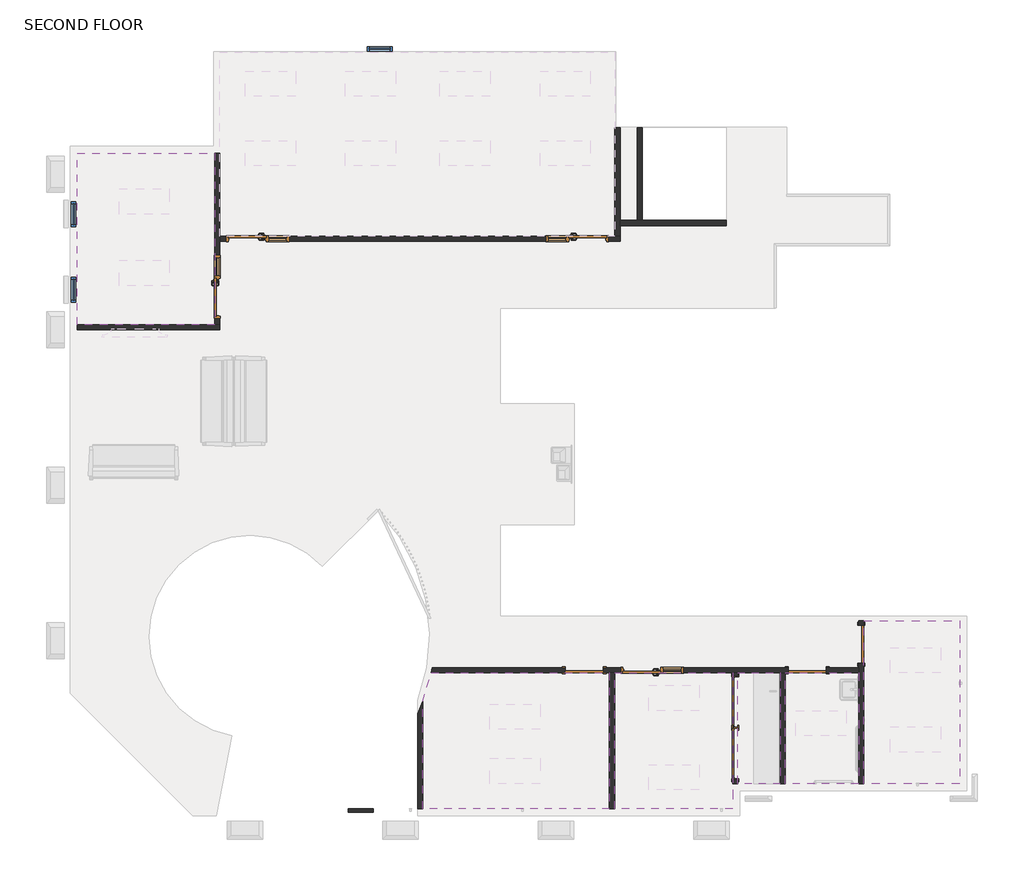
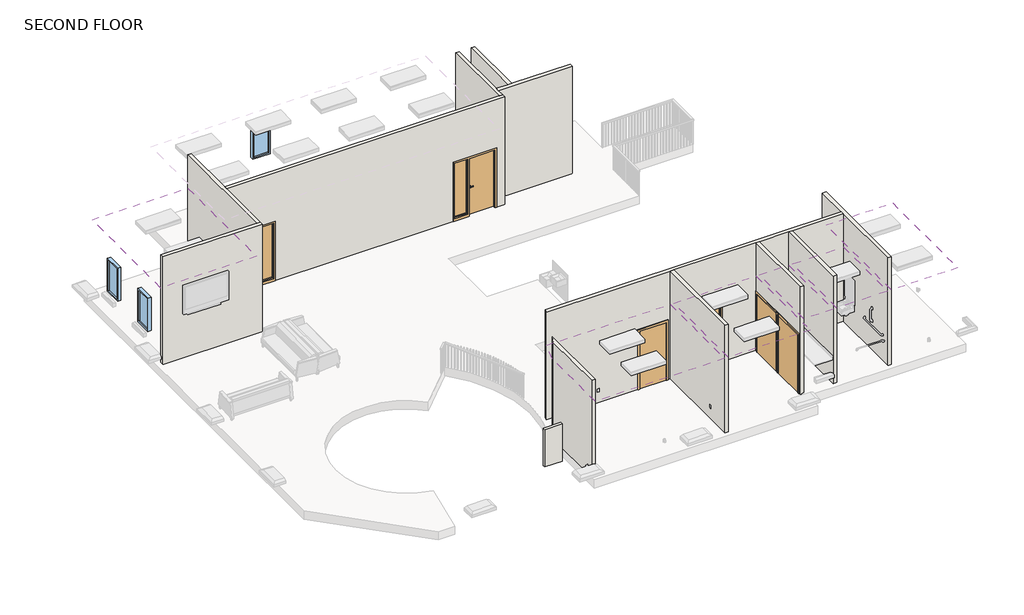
# One storey, part 1 of 2: 13 walls, 9 doors, 6 coverings, 3 windows.
"""IFC4 building model written with IfcOpenShell, lengths in millimetres."""

from ifc_helpers import new_model, si_unit, point, frame, frame_2d, origin, place, context, project, spatial, polyline, circle_curve, trimmed, segment, composite_curve, outline, extrude, faceted_brep, transform, mapped, element, save
from ifc_brep_helpers import plane_surface, revolved_surface, advanced_brep
from components import door_5f36bbb1, hm_frame_door_interior_single_with_sidelite_831faa12, hm_frame_door_interior_single_with_sidelite_94e37508, door_88503111, door_eb9f8b14, aluminum_exterior_window_single_3885_e2dbf674

model = new_model("IFC4")

# Units and contexts
model_context = context("Model", 3, world=origin())
ifc_project = project(units=[si_unit("LENGTHUNIT", "METRE", prefix="MILLI")], contexts=[model_context])

# Site, building, storey
site = spatial("IfcSite", under=ifc_project)
building = spatial("IfcBuilding", under=site)
storey = spatial("IfcBuildingStorey", under=building, Name="SECOND FLOOR", Elevation=34594.8)

# Coverings
placement = place(None, origin())
element("IfcCovering", 1, ObjectType="2' x 2' ACT System", at=placement, inside=storey, context=model_context, shape_type="SweptSolid", body=[
    extrude(outline(composite_curve([segment(polyline([(-3649.772753, -2663.5972564), (-3649.772753, -5952.9989595), (-8159.860253, -5952.9989595), (-8159.860253, -3356.4468483)]), True, "CONTINUOUS"), segment(trimmed(circle_curve(frame_2d((-12311.0905196, -1776.2264191)), 4441.825), [point((-8159.860253, -3356.4468483))], [point((-7958.8057946, -2663.5972564))], True, "CARTESIAN"), True, "CONTINUOUS"), segment(polyline([(-7958.8057946, -2663.5972564), (-3649.772753, -2663.5972564)]), True, "CONTINUOUS")], self_intersect=False), holes=[polyline([(-5326.172753, -3425.5972564), (-6545.372753, -3425.5972564), (-6545.372753, -4035.1972564), (-5326.172753, -4035.1972564), (-5326.172753, -3425.5972564)]), polyline([(-5326.172753, -4733.7989595), (-6545.372753, -4733.7989595), (-6545.372753, -5343.3989595), (-5326.172753, -5343.3989595), (-5326.172753, -4733.7989595)])]), frame((0.0, 0.0, 37338.0), z_axis=(0.0, 0.0, 1.0), x_axis=(1.0, 0.0, 0.0)), (0.0, 0.0, 1.0), 57.15),
])
element("IfcCovering", 2, ObjectType="2' x 2' ACT System", at=placement, inside=storey, context=model_context, shape_type="SweptSolid", body=[
    extrude(outline(polyline([(-670.035253, -2663.5972564), (-670.035253, -5495.7989595), (-670.035253, -5952.9989595), (-3525.947753, -5952.9989595), (-3525.947753, -2663.5972564), (-670.035253, -2663.5972564)]), holes=[polyline([(-1482.835253, -2968.3972564), (-2702.035253, -2968.3972564), (-2702.035253, -3577.9972564), (-1482.835253, -3577.9972564), (-1482.835253, -2968.3972564)]), polyline([(-1482.835253, -4886.1989595), (-2702.035253, -4886.1989595), (-2702.035253, -5495.7989595), (-1482.835253, -5495.7989595), (-1482.835253, -4886.1989595)])]), frame((0.0, 0.0, 37338.0), z_axis=(0.0, 0.0, 1.0), x_axis=(1.0, 0.0, 0.0)), (0.0, 0.0, 1.0), 57.15),
])
element("IfcCovering", 3, ObjectType="2' x 2' ACT System", at=placement, inside=storey, context=model_context, shape_type="SweptSolid", body=[
    extrude(outline(polyline([(476.139747, -2663.5972564), (476.139747, -5343.3989595), (-546.210253, -5343.3989595), (-546.210253, -2663.5972564), (476.139747, -2663.5972564)])), frame((0.0, 0.0, 37338.0), z_axis=(0.0, 0.0, 1.0), x_axis=(1.0, 0.0, 0.0)), (0.0, 0.0, 1.0), 57.15),
])
element("IfcCovering", 4, ObjectType="2' x 2' ACT System", at=placement, inside=storey, context=model_context, shape_type="SweptSolid", body=[
    extrude(outline(polyline([(2377.964747, -5343.3989595), (599.964747, -5343.3989595), (599.964747, -2663.5972564), (2377.964747, -2663.5972564), (2377.964747, -5343.3989595)]), holes=[polyline([(2073.164747, -3577.9972564), (853.964747, -3577.9972564), (853.964747, -4187.5972564), (2073.164747, -4187.5972564), (2073.164747, -3577.9972564)])]), frame((0.0, 0.0, 37338.0), z_axis=(0.0, 0.0, 1.0), x_axis=(1.0, 0.0, 0.0)), (0.0, 0.0, 1.0), 57.15),
])
element("IfcCovering", 5, ObjectType="2' x 2' ACT System", at=placement, inside=storey, context=model_context, shape_type="SweptSolid", body=[
    extrude(outline(polyline([(4816.364747, -1403.2239595), (4816.364747, -5343.3989595), (2501.789747, -5343.3989595), (2501.789747, -1403.2239595), (4816.364747, -1403.2239595)]), holes=[polyline([(4359.164747, -2053.9972564), (3139.964747, -2053.9972564), (3139.964747, -2663.5972564), (4359.164747, -2663.5972564), (4359.164747, -2053.9972564)]), polyline([(4359.164747, -3971.7989595), (3139.964747, -3971.7989595), (3139.964747, -4581.3989595), (4359.164747, -4581.3989595), (4359.164747, -3971.7989595)])]), frame((0.0, 0.0, 37338.0), z_axis=(0.0, 0.0, 1.0), x_axis=(1.0, 0.0, 0.0)), (0.0, 0.0, 1.0), 57.15),
])
element("IfcCovering", 6, ObjectType="2' x 2' ACT System", at=placement, inside=storey, context=model_context, shape_type="SweptSolid", body=[
    extrude(outline(polyline([(-16519.635253, 9896.6010405), (-13189.060253, 9896.6010405), (-13189.060253, 5753.2057205), (-16519.635253, 5753.2057205), (-16519.635253, 9896.6010405)]), holes=[polyline([(-14284.435253, 9033.0010405), (-15503.635253, 9033.0010405), (-15503.635253, 8423.4010405), (-14284.435253, 8423.4010405), (-14284.435253, 9033.0010405)]), polyline([(-14284.435253, 7305.7908805), (-15503.635253, 7305.7908805), (-15503.635253, 6696.1908805), (-14284.435253, 6696.1908805), (-14284.435253, 7305.7908805)])]), frame((0.0, 0.0, 37338.0), z_axis=(0.0, 0.0, 1.0), x_axis=(1.0, 0.0, 0.0)), (0.0, 0.0, 1.0), 57.15),
])

# Doors
door_shape = door_5f36bbb1(model_context)
element("IfcDoor", 7, ObjectType="Double-Flush-Wood Frame : (2) 2'-0\" x 7'-0\"", at=placement, inside=storey, context=model_context, shape_type="MappedRepresentation", body=[
    mapped(door_shape, transform((-608.122753, -3368.4472564, 34594.8), x_axis=(0.0, 1.0, 0.0), y_axis=(-1.0, 0.0, 0.0), z_axis=(0.0, 0.0, 1.0))),
])
element("IfcDoor", 8, ObjectType="Double-Flush-Wood Frame : (2) 2'-0\" x 7'-0\"", at=placement, inside=storey, context=model_context, shape_type="MappedRepresentation", body=[
    mapped(door_shape, transform((-608.122753, -4613.0472564, 34594.8), x_axis=(0.0, 1.0, 0.0), y_axis=(-1.0, 0.0, 0.0), z_axis=(0.0, 0.0, 1.0))),
])
hm_frame_door_interior_single_with_sidelite_shape = hm_frame_door_interior_single_with_sidelite_831faa12(model_context)
element("IfcDoor", 9, ObjectType="HM Frame Door - Interior Single with Sidelite : 36\" x 84\" x 5.75\" x 18\" Lite_Wood", at=placement, inside=storey, context=model_context, shape_type="MappedRepresentation", body=[
    mapped(hm_frame_door_interior_single_with_sidelite_shape, transform((-2865.547753, -2601.6847564, 34594.8), x_axis=(-1.0, 0.0, 0.0), y_axis=(0.0, -1.0, 0.0), z_axis=(0.0, 0.0, 1.0))),
])
element("IfcDoor", 10, ObjectType="HM Frame Door - Interior Single with Sidelite : 36\" x 84\" x 5.75\" x 18\" Lite_Wood", at=placement, inside=storey, context=model_context, shape_type="MappedRepresentation", body=[
    mapped(hm_frame_door_interior_single_with_sidelite_shape, transform((-4175.235253, 7824.9033805, 34594.8), x_axis=(1.0, 0.0, 0.0), y_axis=(0.0, 1.0, 0.0), z_axis=(0.0, 0.0, 1.0))),
])
hm_frame_door_interior_single_with_sidelite_2_shape = hm_frame_door_interior_single_with_sidelite_94e37508(model_context)
element("IfcDoor", 11, ObjectType="HM Frame Door - Interior Single with Sidelite : 36\" x 84\" x 5.75\" x 18\" Lite_Wood", at=placement, inside=storey, context=model_context, shape_type="MappedRepresentation", body=[
    mapped(hm_frame_door_interior_single_with_sidelite_2_shape, transform((-13127.147753, 6413.6057205, 34594.8), x_axis=(0.0, -1.0, 0.0), y_axis=(1.0, 0.0, 0.0), z_axis=(0.0, 0.0, 1.0))),
])
element("IfcDoor", 12, ObjectType="HM Frame Door - Interior Single with Sidelite : 36\" x 84\" x 5.75\" x 18\" Lite_Wood", at=placement, inside=storey, context=model_context, shape_type="MappedRepresentation", body=[
    mapped(hm_frame_door_interior_single_with_sidelite_2_shape, transform((-12404.835253, 7824.9033805, 34594.8), x_axis=(-1.0, 0.0, 0.0), y_axis=(0.0, -1.0, 0.0), z_axis=(0.0, 0.0, 1.0))),
])
door_2_shape = door_88503111(model_context)
element("IfcDoor", 13, ObjectType="Single-Flush : 36\" x 84\"", at=placement, inside=storey, context=model_context, shape_type="MappedRepresentation", body=[
    mapped(door_2_shape, transform((1133.364747, -2601.6847564, 34594.8), x_axis=(-1.0, 0.0, 0.0), y_axis=(0.0, -1.0, 0.0), z_axis=(0.0, 0.0, 1.0))),
])
door_3_shape = door_eb9f8b14(model_context)
element("IfcDoor", 14, ObjectType="Single-Flush : 36\" x 84\"", at=placement, inside=storey, context=model_context, shape_type="MappedRepresentation", body=[
    mapped(door_3_shape, transform((2439.877247, -1971.4981079, 34594.8), x_axis=(0.0, 1.0, 0.0), y_axis=(-1.0, 0.0, 0.0), z_axis=(0.0, 0.0, 1.0))),
])
element("IfcDoor", 15, ObjectType="Single-Flush : 36\" x 84\"", at=placement, inside=storey, context=model_context, shape_type="MappedRepresentation", body=[
    mapped(door_3_shape, transform((-4259.372753, -2601.6847564, 34594.8), x_axis=(1.0, 0.0, 0.0), y_axis=(0.0, 1.0, 0.0), z_axis=(0.0, 0.0, 1.0))),
])

# Walls
element("IfcWall", 16, ObjectType="Interior - 3 1/8\" Partition (1-hr)", at=placement, inside=storey, context=model_context, shape_type="SweptSolid", body=[
    extrude(outline(polyline([(-9966.435253, -5952.9989595), (-9356.835253, -5952.9989595), (-9356.835253, -6032.3739595), (-9966.435253, -6032.3739595), (-9966.435253, -5952.9989595)])), frame((0.0, 0.0, 35610.8), z_axis=(0.0, 0.0, 1.0), x_axis=(1.0, 0.0, 0.0)), (0.0, 0.0, 1.0), 1371.6),
])
element("IfcWall", 17, ObjectType="Interior - 4 7/8\" Partition (1-hr)", at=placement, inside=storey, context=model_context, shape_type="SweptSolid", body=[
    extrude(outline(polyline([(-5343.3989595, 38557.2), (-2663.5972564, 38557.2), (-2663.5972564, 34594.8), (-2733.4472564, 34594.8), (-2733.4472564, 36753.8), (-5248.0472564, 36753.8), (-5248.0472564, 34594.8), (-5343.3989595, 34594.8), (-5343.3989595, 38557.2)])), frame((-670.035253, 0.0, 0.0), z_axis=(1.0, 0.0, 0.0), x_axis=(0.0, 1.0, 0.0)), (0.0, 0.0, 1.0), 123.825),
])
element("IfcWall", 18, ObjectType="Interior - 4 7/8\" Partition (1-hr)", at=placement, inside=storey, context=model_context, shape_type="Brep", body=[
    faceted_brep([(-16519.635253, 5629.3807205, 34594.8), (-13065.235253, 5629.3807205, 34594.8), (-13065.235253, 5629.3807205, 38557.2), (-16519.635253, 5629.3807205, 38557.2), (-16519.635253, 5753.2057205, 34594.8), (-16519.635253, 5753.2057205, 38557.2), (-13189.060253, 5753.2057205, 38557.2), (-13065.235253, 5753.2057205, 38557.2), (-13065.235253, 5753.2057205, 34594.8), (-13189.060253, 5753.2057205, 34594.8)], [[[0, 1, 2, 3]], [[4, 5, 6, 7, 8, 9]], [[1, 0, 4, 9, 8]], [[3, 2, 7, 6, 5]], [[0, 3, 5, 4]], [[2, 1, 8, 7]]]),
])
element("IfcWall", 19, ObjectType="Interior - 4 7/8\" Partition (1-hr)", at=placement, inside=storey, context=model_context, shape_type="Brep", body=[
    faceted_brep([(-13065.235253, 5753.2057205, 34594.8), (-13065.235253, 5905.6057205, 34594.8), (-13065.235253, 5905.6057205, 36779.2), (-13065.235253, 7429.6057205, 36779.2), (-13065.235253, 7429.6057205, 34594.8), (-13065.235253, 7762.9908805, 34594.8), (-13065.235253, 7886.8158805, 34594.8), (-13065.235253, 9896.6010405, 34594.8), (-13065.235253, 9896.6010405, 38557.2), (-13065.235253, 7886.8158805, 38557.2), (-13065.235253, 7762.9908805, 38557.2), (-13065.235253, 5753.2057205, 38557.2), (-13189.060253, 5905.6057205, 36779.2), (-13189.060253, 5905.6057205, 34594.8), (-13189.060253, 5753.2057205, 34594.8), (-13189.060253, 5753.2057205, 38557.2), (-13189.060253, 9896.6010405, 38557.2), (-13189.060253, 9896.6010405, 34594.8), (-13189.060253, 7429.6057205, 34594.8), (-13189.060253, 7429.6057205, 36779.2)], [[[0, 1, 2, 3, 4, 5, 6, 7, 8, 9, 10, 11]], [[12, 13, 14, 15, 16, 17, 18, 19]], [[18, 17, 7, 6, 5, 4]], [[14, 13, 1, 0]], [[11, 10, 9, 8, 16, 15]], [[0, 11, 15, 14]], [[8, 7, 17, 16]], [[3, 2, 12, 19]], [[4, 3, 19, 18]], [[2, 1, 13, 12]]]),
])
element("IfcWall", 20, ObjectType="Interior - 4 7/8\" Partition (1-hr)", at=placement, inside=storey, context=model_context, shape_type="SweptSolid", body=[
    extrude(outline(polyline([(-2978.260253, 8271.0010405), (-2978.260253, 10506.2010405), (-2854.435253, 10506.2010405), (-2854.435253, 8271.0010405), (-2978.260253, 8271.0010405)])), frame((0.0, 0.0, 34594.8), z_axis=(0.0, 0.0, 1.0), x_axis=(1.0, 0.0, 0.0)), (0.0, 0.0, 1.0), 3962.4),
])
element("IfcWall", 21, ObjectType="Interior - 4 7/8\" Partition (1-hr)", at=placement, inside=storey, context=model_context, shape_type="AdvancedBrep", body=[
    advanced_brep(
    [(2377.964747, -2663.5972564, 34594.8), (2377.964747, -2663.5972564, 38557.2), (599.964747, -2663.5972564, 38557.2), (476.139747, -2663.5972564, 38557.2), (-546.210253, -2663.5972564, 38557.2), (-670.035253, -2663.5972564, 38557.2), (-3525.947753, -2663.5972564, 38557.2), (-3649.772753, -2663.5972564, 38557.2), (-7958.8057946, -2663.5972564, 38557.2), (-7958.8057946, -2663.5972564, 34594.8), (-4716.572753, -2663.5972564, 34594.8), (-4716.572753, -2663.5972564, 36728.4), (-3802.172753, -2663.5972564, 36728.4), (-3802.172753, -2663.5972564, 34594.8), (-3649.772753, -2663.5972564, 34594.8), (-3525.947753, -2663.5972564, 34594.8), (-3373.547753, -2663.5972564, 34594.8), (-3373.547753, -2663.5972564, 36779.2), (-1849.547753, -2663.5972564, 36779.2), (-1849.547753, -2663.5972564, 34594.8), (-670.035253, -2663.5972564, 34594.8), (-546.210253, -2663.5972564, 34594.8), (476.139747, -2663.5972564, 34594.8), (599.964747, -2663.5972564, 34594.8), (676.164747, -2663.5972564, 34594.8), (676.164747, -2663.5972564, 36728.4), (1590.564747, -2663.5972564, 36728.4), (1590.564747, -2663.5972564, 34594.8), (-7935.3840526, -2539.7722564, 38557.2), (2377.964747, -2539.7722564, 38557.2), (2377.964747, -2539.7722564, 34594.8), (1590.564747, -2539.7722564, 34594.8), (1590.564747, -2539.7722564, 36728.4), (676.164747, -2539.7722564, 36728.4), (676.164747, -2539.7722564, 34594.8), (-1849.547753, -2539.7722564, 34594.8), (-1849.547753, -2539.7722564, 36779.2), (-3373.547753, -2539.7722564, 36779.2), (-3373.547753, -2539.7722564, 34594.8), (-3802.172753, -2539.7722564, 34594.8), (-3802.172753, -2539.7722564, 36728.4), (-4716.572753, -2539.7722564, 36728.4), (-4716.572753, -2539.7722564, 34594.8), (-7935.3840526, -2539.7722564, 34594.8)],
    [
        (0, 1),
        (1, 2),
        (2, 3),
        (3, 4),
        (4, 5),
        (5, 6),
        (6, 7),
        (7, 8),
        (8, 9),
        (9, 10),
        (10, 11),
        (11, 12),
        (12, 13),
        (13, 14),
        (14, 15),
        (15, 16),
        (16, 17),
        (17, 18),
        (18, 19),
        (19, 20),
        (20, 21),
        (21, 22),
        (22, 23),
        (23, 24),
        (24, 25),
        (25, 26),
        (26, 27),
        (27, 0),
        (28, 29),
        (29, 30),
        (30, 31),
        (31, 32),
        (32, 33),
        (33, 34),
        (34, 35),
        (35, 36),
        (36, 37),
        (37, 38),
        (38, 39),
        (39, 40),
        (40, 41),
        (41, 42),
        (42, 43),
        (43, 28),
        (30, 0),
        (27, 31),
        (19, 35),
        (34, 24),
        (38, 16),
        (13, 39),
        (9, 43, circle_curve(frame((-12311.0905196, -1776.2264191, 34594.8), z_axis=(0.0, 0.0, 1.0), x_axis=(0.28138336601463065, -0.9595954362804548, 0.0)), 4441.825)),
        (42, 10),
        (28, 8, circle_curve(frame((-12311.0905196, -1776.2264191, 38557.2), z_axis=(0.0, 0.0, -1.0), x_axis=(0.28138336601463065, -0.9595954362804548, 0.0)), 4441.825)),
        (1, 29),
        (17, 37),
        (36, 18),
        (33, 25),
        (32, 26),
        (12, 40),
        (11, 41),
    ],
    [
        plane_surface(frame((-8022.010606, -2663.5972564, 34594.8), z_axis=(0.0, -1.0, 0.0), x_axis=(1.0, 0.0, 0.0))),
        plane_surface(frame((-8022.010606, -2539.7722564, 34594.8), z_axis=(0.0, 1.0, 0.0), x_axis=(-1.0, 0.0, 0.0))),
        plane_surface(frame((-8009.6660996, -2663.5972564, 34594.8), z_axis=(0.0, 0.0, -1.0), x_axis=(0.0, 1.0, 0.0))),
        plane_surface(frame((2439.877247, -2663.5972564, 38557.2), z_axis=(0.0, 0.0, 1.0), x_axis=(0.0, 1.0, 0.0))),
        plane_surface(frame((2377.964747, -2663.5972564, 34594.8), z_axis=(1.0, 0.0, 0.0), x_axis=(0.0, -1.0, 0.0))),
        plane_surface(frame((-3373.547753, -2663.5972564, 36779.2), z_axis=(0.0, 0.0, -1.0), x_axis=(0.0, 1.0, 0.0))),
        plane_surface(frame((-1849.547753, -2663.5972564, 36779.2), z_axis=(-1.0, 0.0, 0.0), x_axis=(0.0, 1.0, 0.0))),
        plane_surface(frame((-3373.547753, -2663.5972564, 34594.8), z_axis=(1.0, 0.0, 0.0), x_axis=(0.0, 1.0, 0.0))),
        plane_surface(frame((676.164747, -2663.5972564, 34594.8), z_axis=(1.0, 0.0, 0.0), x_axis=(0.0, 1.0, 0.0))),
        plane_surface(frame((676.164747, -2663.5972564, 36728.4), z_axis=(0.0, 0.0, -1.0), x_axis=(0.0, 1.0, 0.0))),
        plane_surface(frame((1590.564747, -2663.5972564, 36728.4), z_axis=(-1.0, 0.0, 0.0), x_axis=(0.0, 1.0, 0.0))),
        revolved_surface(polyline([(-11061.234849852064, -6038.581417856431, 38557.2), (-11061.234849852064, -6038.581417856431, 34594.8)]), (-12311.0905196, -1776.2264191, 34594.8), (0.0, 0.0, 1.0)),
        plane_surface(frame((-3802.172753, -2539.7722564, 34594.8), z_axis=(-1.0, 0.0, 0.0), x_axis=(0.0, -1.0, 0.0))),
        plane_surface(frame((-3802.172753, -2539.7722564, 36728.4), z_axis=(0.0, 0.0, -1.0), x_axis=(0.0, -1.0, 0.0))),
        plane_surface(frame((-4716.572753, -2539.7722564, 36728.4), z_axis=(1.0, 0.0, 0.0), x_axis=(0.0, -1.0, 0.0))),
    ],
    [
        (0, [[1, 2, 3, 4, 5, 6, 7, 8, 9, 10, 11, 12, 13, 14, 15, 16, 17, 18, 19, 20, 21, 22, 23, 24, 25, 26, 27, 28]]),
        (1, [[29, 30, 31, 32, 33, 34, 35, 36, 37, 38, 39, 40, 41, 42, 43, 44]]),
        (2, [[45, -28, 46, -31]]),
        (2, [[47, -35, 48, -24, -23, -22, -21, -20]]),
        (2, [[49, -16, -15, -14, 50, -39]]),
        (2, [[51, -43, 52, -10]]),
        (3, [[-29, 53, -8, -7, -6, -5, -4, -3, -2, 54]]),
        (4, [[-1, -45, -30, -54]]),
        (5, [[-18, 55, -37, 56]]),
        (6, [[-19, -56, -36, -47]]),
        (7, [[-17, -49, -38, -55]]),
        (8, [[-25, -48, -34, 57]]),
        (9, [[-26, -57, -33, 58]]),
        (10, [[-27, -58, -32, -46]]),
        (11, [[-9, -53, -44, -51]]),
        (12, [[-40, -50, -13, 59]]),
        (13, [[-41, -59, -12, 60]]),
        (14, [[-42, -60, -11, -52]]),
    ],
),
])
element("IfcWall", 22, ObjectType="Interior - 4 7/8\" Partition (1-hr)", at=placement, inside=storey, context=model_context, shape_type="Brep", body=[
    faceted_brep([(2377.964747, -1403.2239595, 34594.8), (2377.964747, -1514.2981079, 34594.8), (2377.964747, -1514.2981079, 36728.4), (2377.964747, -2428.6981079, 36728.4), (2377.964747, -2428.6981079, 34594.8), (2377.964747, -2539.7722564, 34594.8), (2377.964747, -2663.5972564, 34594.8), (2377.964747, -5343.3989595, 34594.8), (2377.964747, -5343.3989595, 38557.2), (2377.964747, -2663.5972564, 38557.2), (2377.964747, -2539.7722564, 38557.2), (2377.964747, -1403.2239595, 38557.2), (2501.789747, -1514.2981079, 36728.4), (2501.789747, -1514.2981079, 34594.8), (2501.789747, -1403.2239595, 34594.8), (2501.789747, -1403.2239595, 38557.2), (2501.789747, -5343.3989595, 38557.2), (2501.789747, -5343.3989595, 34594.8), (2501.789747, -2428.6981079, 34594.8), (2501.789747, -2428.6981079, 36728.4)], [[[0, 1, 2, 3, 4, 5, 6, 7, 8, 9, 10, 11]], [[12, 13, 14, 15, 16, 17, 18, 19]], [[18, 17, 7, 6, 5, 4]], [[14, 13, 1, 0]], [[11, 10, 9, 8, 16, 15]], [[8, 7, 17, 16]], [[0, 11, 15, 14]], [[2, 1, 13, 12]], [[3, 2, 12, 19]], [[4, 3, 19, 18]]]),
])
element("IfcWall", 23, ObjectType="Interior - 4 7/8\" Partition (1-hr)", at=placement, inside=storey, context=model_context, shape_type="SweptSolid", body=[
    extrude(outline(polyline([(-3525.947753, -2663.5972564), (-3525.947753, -5952.9989595), (-3649.772753, -5952.9989595), (-3649.772753, -2663.5972564), (-3525.947753, -2663.5972564)])), frame((0.0, 0.0, 34594.8), z_axis=(0.0, 0.0, 1.0), x_axis=(1.0, 0.0, 0.0)), (0.0, 0.0, 1.0), 3962.4),
])
element("IfcWall", 24, ObjectType="Interior - 4 7/8\" Partition (1-hr)", at=placement, inside=storey, context=model_context, shape_type="SweptSolid", body=[
    extrude(outline(polyline([(599.964747, -2663.5972564), (599.964747, -5343.3989595), (476.139747, -5343.3989595), (476.139747, -2663.5972564), (599.964747, -2663.5972564)])), frame((0.0, 0.0, 34594.8), z_axis=(0.0, 0.0, 1.0), x_axis=(1.0, 0.0, 0.0)), (0.0, 0.0, 1.0), 3962.4),
])
element("IfcWall", 25, ObjectType="Interior - 4 7/8\" Partition (1-hr)", at=placement, inside=storey, context=model_context, shape_type="Brep", body=[
    faceted_brep([(-822.435253, 8271.0010405, 34594.8), (-2854.435253, 8271.0010405, 34594.8), (-2978.260253, 8271.0010405, 34594.8), (-3391.010253, 8271.0010405, 34594.8), (-3391.010253, 8271.0010405, 38557.2), (-2978.260253, 8271.0010405, 38557.2), (-2854.435253, 8271.0010405, 38557.2), (-822.435253, 8271.0010405, 38557.2), (-822.435253, 8147.1760405, 34594.8), (-822.435253, 8147.1760405, 38557.2), (-3391.010253, 8147.1760405, 38557.2), (-3391.010253, 8147.1760405, 34594.8)], [[[0, 1, 2, 3, 4, 5, 6, 7]], [[8, 9, 10, 11]], [[3, 2, 1, 0, 8, 11]], [[7, 6, 5, 4, 10, 9]], [[0, 7, 9, 8]], [[4, 3, 11, 10]]]),
])
element("IfcWall", 26, ObjectType="Interior - 4 7/8\" Partition (1-hr)", at=placement, inside=storey, context=model_context, shape_type="Brep", body=[
    faceted_brep([(-3391.010253, 7886.8158805, 34594.8), (-3391.010253, 8147.1760405, 34594.8), (-3391.010253, 8271.0010405, 34594.8), (-3391.010253, 10506.2010405, 34594.8), (-3391.010253, 10506.2010405, 38557.2), (-3391.010253, 8271.0010405, 38557.2), (-3391.010253, 8147.1760405, 38557.2), (-3391.010253, 7886.8158805, 38557.2), (-3514.835253, 7886.8158805, 34594.8), (-3514.835253, 7886.8158805, 38557.2), (-3514.835253, 10506.2010405, 38557.2), (-3514.835253, 10506.2010405, 34594.8)], [[[0, 1, 2, 3, 4, 5, 6, 7]], [[8, 9, 10, 11]], [[3, 2, 1, 0, 8, 11]], [[7, 6, 5, 4, 10, 9]], [[4, 3, 11, 10]], [[0, 7, 9, 8]]]),
])
element("IfcWall", 27, ObjectType="Interior - 4 7/8\" Partition (1-hr)", at=placement, inside=storey, context=model_context, shape_type="Brep", body=[
    faceted_brep([(-3667.235253, 7762.9908805, 36779.2), (-3667.235253, 7762.9908805, 34594.8), (-3391.010253, 7762.9908805, 34594.8), (-3391.010253, 7762.9908805, 38557.2), (-13065.235253, 7762.9908805, 38557.2), (-13065.235253, 7762.9908805, 34594.8), (-12912.835253, 7762.9908805, 34594.8), (-12912.835253, 7762.9908805, 36779.2), (-11388.835253, 7762.9908805, 36779.2), (-11388.835253, 7762.9908805, 34594.8), (-5191.235253, 7762.9908805, 34594.8), (-5191.235253, 7762.9908805, 36779.2), (-3391.010253, 7886.8158805, 34594.8), (-3514.835253, 7886.8158805, 34594.8), (-3667.235253, 7886.8158805, 34594.8), (-3667.235253, 7886.8158805, 36779.2), (-5191.235253, 7886.8158805, 36779.2), (-5191.235253, 7886.8158805, 34594.8), (-11388.835253, 7886.8158805, 34594.8), (-11388.835253, 7886.8158805, 36779.2), (-12912.835253, 7886.8158805, 36779.2), (-12912.835253, 7886.8158805, 34594.8), (-13065.235253, 7886.8158805, 34594.8), (-13065.235253, 7886.8158805, 38557.2), (-3514.835253, 7886.8158805, 38557.2), (-3391.010253, 7886.8158805, 38557.2)], [[[0, 1, 2, 3, 4, 5, 6, 7, 8, 9, 10, 11]], [[12, 13, 14, 15, 16, 17, 18, 19, 20, 21, 22, 23, 24, 25]], [[22, 21, 6, 5]], [[10, 9, 18, 17]], [[2, 1, 14, 13, 12]], [[4, 3, 25, 24, 23]], [[5, 4, 23, 22]], [[3, 2, 12, 25]], [[8, 7, 20, 19]], [[9, 8, 19, 18]], [[7, 6, 21, 20]], [[16, 15, 0, 11]], [[17, 16, 11, 10]], [[15, 14, 1, 0]]]),
])
element("IfcWall", 28, ObjectType="Interior - 4 7/8\" Partition (1-hr)", at=placement, inside=storey, context=model_context, shape_type="SweptSolid", body=[
    extrude(outline(composite_curve([segment(polyline([(-8159.860253, -3356.4468483), (-8159.860253, -5952.9989595), (-8283.685253, -5952.9989595), (-8283.685253, -3649.6767519)]), True, "CONTINUOUS"), segment(trimmed(circle_curve(frame_2d((-12311.0905196, -1776.2264191)), 4441.825), [point((-8283.685253, -3649.6767519))], [point((-8159.860253, -3356.4468483))], True, "CARTESIAN"), True, "CONTINUOUS")], self_intersect=False)), frame((0.0, 0.0, 34594.8), z_axis=(0.0, 0.0, 1.0), x_axis=(1.0, 0.0, 0.0)), (0.0, 0.0, 1.0), 3556.0),
])

# Windows
aluminum_exterior_window_single_3885_shape = aluminum_exterior_window_single_3885_e2dbf674(model_context)
element("IfcWindow", 29, ObjectType="Aluminum_Exterior_Window_-_Single_3885 : 24\"W. x 48\"H.", at=placement, inside=storey, context=model_context, shape_type="MappedRepresentation", body=[
    mapped(aluminum_exterior_window_single_3885_shape, transform((-16698.5927777, 6746.9756405, 34442.4), x_axis=(0.0, -1.0, 0.0), y_axis=(1.0, 0.0, 0.0), z_axis=(0.0, 0.0, 1.0))),
])
element("IfcWindow", 30, ObjectType="Aluminum_Exterior_Window_-_Single_3885 : 24\"W. x 48\"H.", at=placement, inside=storey, context=model_context, shape_type="MappedRepresentation", body=[
    mapped(aluminum_exterior_window_single_3885_shape, transform((-16698.5927777, 8575.7756405, 34442.4), x_axis=(0.0, -1.0, 0.0), y_axis=(1.0, 0.0, 0.0), z_axis=(0.0, 0.0, 1.0))),
])
element("IfcWindow", 31, ObjectType="Aluminum_Exterior_Window_-_Single_3885 : 24\"W. x 48\"H.", at=placement, inside=storey, context=model_context, shape_type="MappedRepresentation", body=[
    mapped(aluminum_exterior_window_single_3885_shape, transform((-9052.035253, 12513.9585652, 34594.8), x_axis=(-1.0, 0.0, 0.0), y_axis=(0.0, -1.0, 0.0), z_axis=(0.0, 0.0, 1.0))),
])

save(model, "model.ifc")
